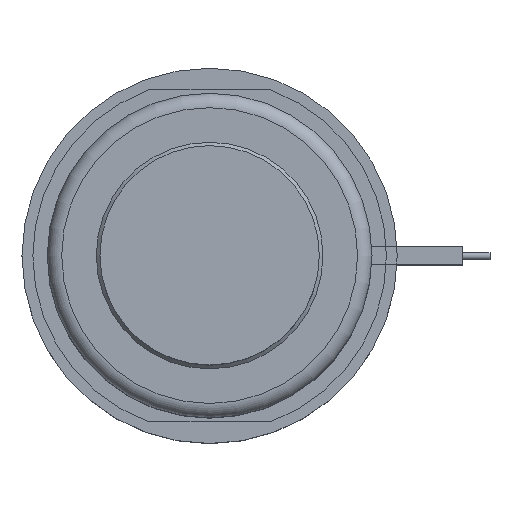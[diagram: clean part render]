
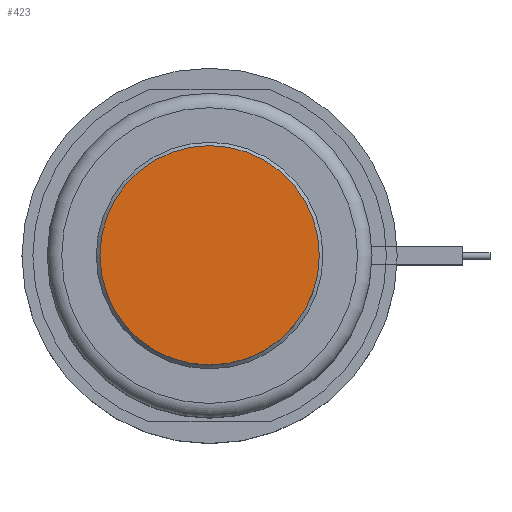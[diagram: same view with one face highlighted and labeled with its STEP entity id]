
A CAD part, top view. The second image highlights one B-rep face of the part: STEP entity #423.
In plain terms, the highlighted planar face has unit normal (0, 0, 1).
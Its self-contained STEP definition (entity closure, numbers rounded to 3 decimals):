
#270=PLANE('',#1403);
#330=FACE_OUTER_BOUND('',#659,.T.);
#423=ADVANCED_FACE('',(#330),#270,.F.);
#659=EDGE_LOOP('',(#925));
#925=ORIENTED_EDGE('',*,*,#1178,.F.);
#1044=VERTEX_POINT('',#2205);
#1178=EDGE_CURVE('',#1044,#1044,#1251,.T.);
#1251=CIRCLE('',#1402,15.2);
#1402=AXIS2_PLACEMENT_3D('',#2204,#1757,#1758);
#1403=AXIS2_PLACEMENT_3D('',#2206,#1759,#1760);
#1757=DIRECTION('',(0.,0.,-1.));
#1758=DIRECTION('',(-1.,0.,0.));
#1759=DIRECTION('',(0.,0.,-1.));
#1760=DIRECTION('',(-1.,0.,0.));
#2204=CARTESIAN_POINT('',(0.,0.,18.));
#2205=CARTESIAN_POINT('',(-15.2,0.,18.));
#2206=CARTESIAN_POINT('',(0.,0.,18.));
